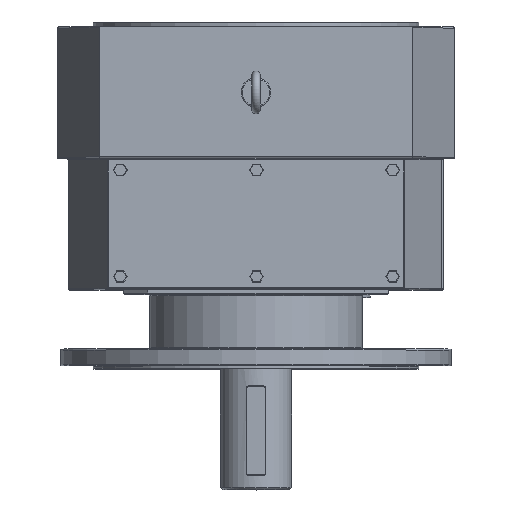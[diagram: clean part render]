
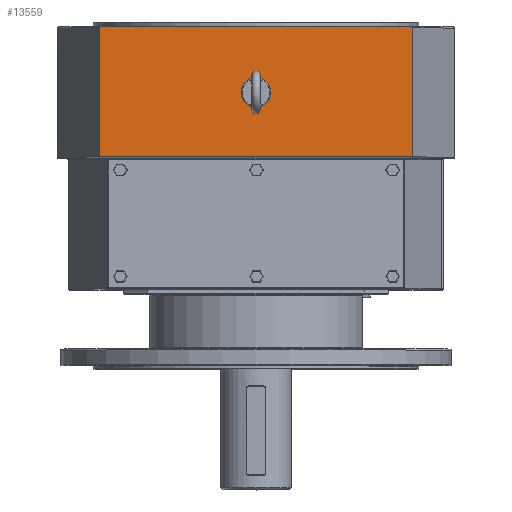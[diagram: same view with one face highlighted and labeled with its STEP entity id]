
A CAD part, top view. The second image highlights one B-rep face of the part: STEP entity #13559.
In plain terms, the highlighted planar face has unit normal (0, 0, 1).
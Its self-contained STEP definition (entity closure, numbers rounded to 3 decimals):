
#12607=CARTESIAN_POINT('',(25.0,111.,675.0));
#12608=VERTEX_POINT('',#12607);
#12609=CARTESIAN_POINT('',(0.,111.,675.0));
#12610=DIRECTION('',(0.0,0.0,-1.));
#12611=DIRECTION('',(0.707,0.707,0.0));
#12612=AXIS2_PLACEMENT_3D('',#12609,#12610,#12611);
#12613=CIRCLE('',#12612,25.);
#12614=EDGE_CURVE('',#12608,#12608,#12613,.F.);
#13216=CARTESIAN_POINT('',(-265.0,220.,675.0));
#13217=VERTEX_POINT('',#13216);
#13218=CARTESIAN_POINT('',(-262.806,222.,675.0));
#13219=VERTEX_POINT('',#13218);
#13220=CARTESIAN_POINT('',(-262.806,220.,675.0));
#13221=DIRECTION('',(0.0,0.0,-1.0));
#13222=DIRECTION('',(-1.0,0.0,0.0));
#13223=AXIS2_PLACEMENT_3D('',#13220,#13221,#13222);
#13224=ELLIPSE('',#13223,2.194,2.);
#13225=EDGE_CURVE('',#13217,#13219,#13224,.T.);
#13424=CARTESIAN_POINT('',(262.806,222.,675.0));
#13425=VERTEX_POINT('',#13424);
#13426=CARTESIAN_POINT('',(262.806,222.,675.0));
#13427=DIRECTION('',(-1.0,0.0,0.0));
#13428=VECTOR('',#13427,525.611);
#13429=LINE('',#13426,#13428);
#13430=EDGE_CURVE('',#13425,#13219,#13429,.T.);
#13516=CARTESIAN_POINT('',(0.0,0.0,675.0));
#13517=DIRECTION('',(0.0,0.0,1.0));
#13518=DIRECTION('',(1.0,0.0,0.0));
#13519=AXIS2_PLACEMENT_3D('',#13516,#13517,#13518);
#13520=PLANE('',#13519);
#13521=ORIENTED_EDGE('',*,*,#13225,.F.);
#13522=CARTESIAN_POINT('',(-265.0,2.0,675.0));
#13523=VERTEX_POINT('',#13522);
#13524=CARTESIAN_POINT('',(-265.0,2.0,675.0));
#13525=DIRECTION('',(0.0,1.0,0.0));
#13526=VECTOR('',#13525,218.);
#13527=LINE('',#13524,#13526);
#13528=EDGE_CURVE('',#13523,#13217,#13527,.T.);
#13529=ORIENTED_EDGE('',*,*,#13528,.F.);
#13530=CARTESIAN_POINT('',(265.0,2.,675.0));
#13531=VERTEX_POINT('',#13530);
#13532=CARTESIAN_POINT('',(265.0,2.,675.0));
#13533=DIRECTION('',(-1.0,0.0,0.0));
#13534=VECTOR('',#13533,530.0);
#13535=LINE('',#13532,#13534);
#13536=EDGE_CURVE('',#13531,#13523,#13535,.T.);
#13537=ORIENTED_EDGE('',*,*,#13536,.F.);
#13538=CARTESIAN_POINT('',(265.0,220.,675.0));
#13539=VERTEX_POINT('',#13538);
#13540=CARTESIAN_POINT('',(265.0,2.,675.0));
#13541=DIRECTION('',(0.0,1.0,0.0));
#13542=VECTOR('',#13541,218.);
#13543=LINE('',#13540,#13542);
#13544=EDGE_CURVE('',#13531,#13539,#13543,.T.);
#13545=ORIENTED_EDGE('',*,*,#13544,.T.);
#13546=CARTESIAN_POINT('',(262.806,220.,675.0));
#13547=DIRECTION('',(0.0,0.0,-1.0));
#13548=DIRECTION('',(1.0,0.0,0.0));
#13549=AXIS2_PLACEMENT_3D('',#13546,#13547,#13548);
#13550=ELLIPSE('',#13549,2.194,2.);
#13551=EDGE_CURVE('',#13425,#13539,#13550,.T.);
#13552=ORIENTED_EDGE('',*,*,#13551,.F.);
#13553=ORIENTED_EDGE('',*,*,#13430,.T.);
#13554=EDGE_LOOP('',(#13521,#13529,#13537,#13545,#13552,#13553));
#13555=FACE_OUTER_BOUND('',#13554,.T.);
#13556=ORIENTED_EDGE('',*,*,#12614,.F.);
#13557=EDGE_LOOP('',(#13556));
#13558=FACE_BOUND('',#13557,.T.);
#13559=ADVANCED_FACE('',(#13555,#13558),#13520,.T.);
